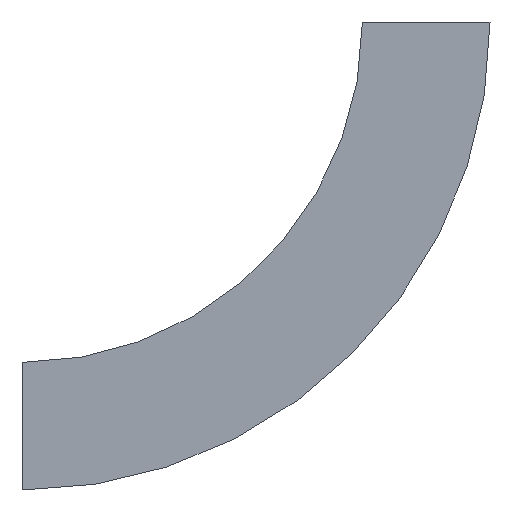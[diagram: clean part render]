
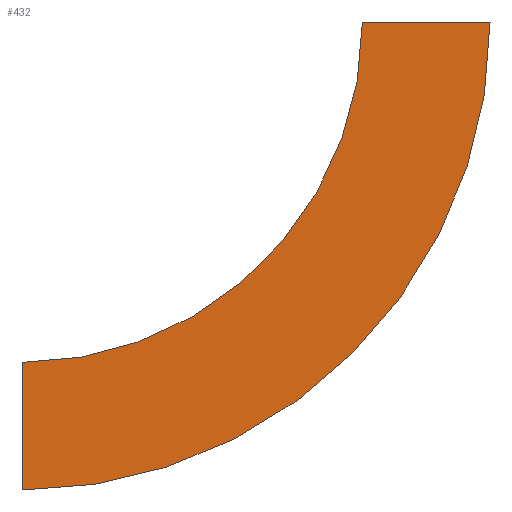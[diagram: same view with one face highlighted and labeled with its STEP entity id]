
A CAD part, left-side view. The second image highlights one B-rep face of the part: STEP entity #432.
In plain terms, the highlighted planar face has unit normal (-1, 0, 0) as drawn and (1, 0, 0) by its records, which use the part's own axes.
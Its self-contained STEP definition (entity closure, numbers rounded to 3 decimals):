
#19 = EDGE_CURVE ( 'NONE', #450, #515, #306, .T. ) ;
#24 = DIRECTION ( 'NONE',  ( 1., 0., 0. ) ) ;
#48 = ORIENTED_EDGE ( 'NONE', *, *, #472, .F. ) ;
#58 = ORIENTED_EDGE ( 'NONE', *, *, #19, .T. ) ;
#62 = ORIENTED_EDGE ( 'NONE', *, *, #190, .F. ) ;
#68 = LINE ( 'NONE', #164, #108 ) ;
#108 = VECTOR ( 'NONE', #455, 1000. ) ;
#113 = CARTESIAN_POINT ( 'NONE',  ( 0., -112.5, 0. ) ) ;
#132 = CARTESIAN_POINT ( 'NONE',  ( 0., 300., -300. ) ) ;
#143 = VERTEX_POINT ( 'NONE', #550 ) ;
#148 = ORIENTED_EDGE ( 'NONE', *, *, #564, .T. ) ;
#149 = DIRECTION ( 'NONE',  ( 0., -1., 0. ) ) ;
#164 = CARTESIAN_POINT ( 'NONE',  ( 0., -112.5, 0. ) ) ;
#188 = AXIS2_PLACEMENT_3D ( 'NONE', #429, #435, #297 ) ;
#190 = EDGE_CURVE ( 'NONE', #240, #143, #68, .T. ) ;
#240 = VERTEX_POINT ( 'NONE', #113 ) ;
#246 = CARTESIAN_POINT ( 'NONE',  ( 0., 300., 0. ) ) ;
#254 = CARTESIAN_POINT ( 'NONE',  ( 0., 300., -412.5 ) ) ;
#264 = PLANE ( 'NONE',  #188 ) ;
#271 = VECTOR ( 'NONE', #394, 1000. ) ;
#297 = DIRECTION ( 'NONE',  ( 0., 0., 1. ) ) ;
#306 = LINE ( 'NONE', #469, #271 ) ;
#336 = CIRCLE ( 'NONE', #357, 300. ) ;
#357 = AXIS2_PLACEMENT_3D ( 'NONE', #246, #24, #380 ) ;
#378 = CIRCLE ( 'NONE', #389, 412.5 ) ;
#380 = DIRECTION ( 'NONE',  ( 0., -1., 0. ) ) ;
#389 = AXIS2_PLACEMENT_3D ( 'NONE', #580, #414, #149 ) ;
#394 = DIRECTION ( 'NONE',  ( 0., 0., 1. ) ) ;
#414 = DIRECTION ( 'NONE',  ( 1., 0., 0. ) ) ;
#429 = CARTESIAN_POINT ( 'NONE',  ( 0., -112.5, 0. ) ) ;
#432 = ADVANCED_FACE ( 'NONE', ( #486 ), #264, .F. ) ;
#435 = DIRECTION ( 'NONE',  ( -1., 0., 0. ) ) ;
#450 = VERTEX_POINT ( 'NONE', #254 ) ;
#455 = DIRECTION ( 'NONE',  ( 0., 1., 0. ) ) ;
#467 = EDGE_LOOP ( 'NONE', ( #48, #62, #148, #58 ) ) ;
#469 = CARTESIAN_POINT ( 'NONE',  ( 0., 300., -412.5 ) ) ;
#472 = EDGE_CURVE ( 'NONE', #143, #515, #336, .T. ) ;
#486 = FACE_OUTER_BOUND ( 'NONE', #467, .T. ) ;
#515 = VERTEX_POINT ( 'NONE', #132 ) ;
#550 = CARTESIAN_POINT ( 'NONE',  ( 0., 0., 0. ) ) ;
#564 = EDGE_CURVE ( 'NONE', #240, #450, #378, .T. ) ;
#580 = CARTESIAN_POINT ( 'NONE',  ( 0., 300., 0. ) ) ;
